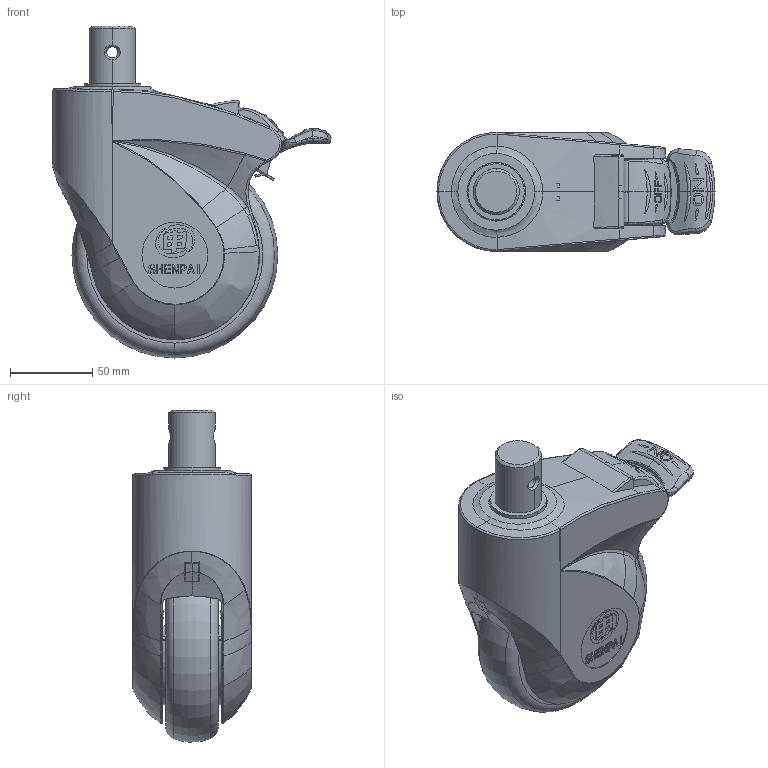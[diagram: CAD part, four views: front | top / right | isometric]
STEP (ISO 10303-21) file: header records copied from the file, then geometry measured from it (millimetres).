
FILE_DESCRIPTION(/* description */ (''),/* implementation_level */ '2;1');
FILE_NAME(/* name */ '80C26_5_F.stp',/* time_stamp */ '2022-10-17T15:32:10+08:00',/* author */ (''),/* organization */ (''),/* preprocessor_version */ 'ST-DEVELOPER v14',/* originating_system */ 'SIEMENS PLM Software NX 8.0',/* authorisation */ '');
FILE_SCHEMA (('AUTOMOTIVE_DESIGN { 1 0 10303 214 3 1 1 1 }'));
Length unit declared in the file: millimetre
Products named in the file (1): 80C26_5_F
Bounding box: 168.59 x 72 x 201.31 mm (x, y, z)
Volume: 480854.6 mm3; surface area: 218596.2 mm2
Topology: 1 solids, 5 shells, 2445 faces, 6649 edges, 4246 vertices
Faces by surface type: plane 903, bspline 675, cylinder 600, torus 210, cone 50, sphere 7
Full cylindrical faces by diameter (mm): 5 x2, 35.5 x1
Entity records: 122114 total; most frequent: CARTESIAN_POINT 68560, ORIENTED_EDGE 13274, DIRECTION 8202, EDGE_CURVE 6637, VERTEX_POINT 4244, AXIS2_PLACEMENT_3D 3050, B_SPLINE_CURVE_WITH_KNOTS 3005, EDGE_LOOP 2589
